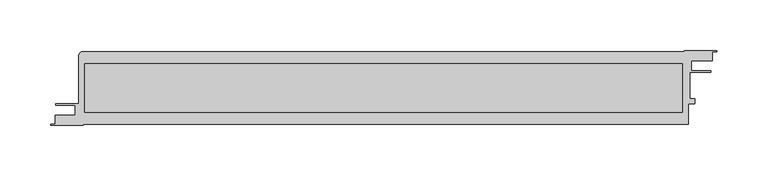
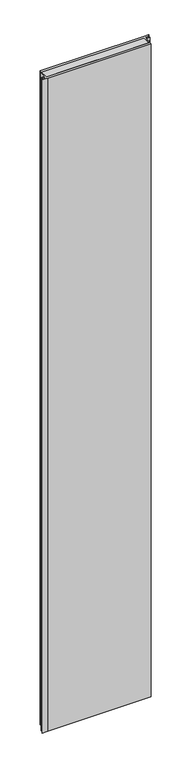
"""IFC4 building model written with IfcOpenShell, lengths in millimetres: plate geometry, Walls_External-Walls_Danpal_Danpatherm-K7-with-NM-Frame : Walls_External-Walls_Danpal_Danpatherm-K7-with-NM-Frame."""

import ifcopenshell
import ifcopenshell.guid

model = None  # the IFC model being written
_history = None  # IfcOwnerHistory: only IFC2X3 demands one
_inside = {}  # id of a spatial element -> (the spatial element, [elements in it])
_under = {}  # id of a project, library or spatial element -> (it, [spatial elements below it])
_declared = {}  # id of a project -> (the project, [libraries it declares])
_typed = {}  # id of a type object -> (the type object, [elements of that type])
_made_of = {}  # id of a material, layer set ... -> (it, [elements and type objects made of it])


def new_model(schema):
    """Start an empty IFC model of exactly this schema.

    Asked for "IFC4X3", IfcOpenShell would pick the latest addendum, in which some entities
    have other attributes; the version numbers below select the first issue.
    IFC2X3 requires an IfcOwnerHistory on every rooted entity: one is made here for all.
    """
    global model, _history
    if schema == "IFC4X3":
        model = ifcopenshell.file(schema_version=(4, 3, 0, 0))
    else:
        model = ifcopenshell.file(schema=schema)
    _inside.clear()
    _under.clear()
    _declared.clear()
    _typed.clear()
    _made_of.clear()
    _history = None
    if model.schema == "IFC2X3":
        org = make("IfcOrganization", Name="unknown")
        user = make(
            "IfcPersonAndOrganization",
            ThePerson=make("IfcPerson", FamilyName="unknown"),
            TheOrganization=org,
        )
        app = make(
            "IfcApplication",
            ApplicationDeveloper=org,
            Version="unknown",
            ApplicationFullName="unknown",
            ApplicationIdentifier="unknown",
        )
        _history = make(
            "IfcOwnerHistory",
            OwningUser=user,
            OwningApplication=app,
            ChangeAction="ADDED",
            CreationDate=0,
        )
    return model


def make(cls, **values):
    """One entity of the class cls with the attributes given. An attribute that is None is left unset."""
    return model.create_entity(
        cls, **{name: value for name, value in values.items() if value is not None}
    )


def rooted(cls, **values):
    """An entity with a GlobalId (a new one), such as an element, a storey or a relation."""
    return make(cls, GlobalId=ifcopenshell.guid.new(), OwnerHistory=_history, **values)


def si_unit(unit_type, name, prefix=None):
    """IfcSIUnit, for example si_unit("LENGTHUNIT", "METRE", prefix="MILLI")."""
    return make("IfcSIUnit", UnitType=unit_type, Prefix=prefix, Name=name)


def assignment(units):
    """IfcUnitAssignment: the units of a project."""
    return None if units is None else make("IfcUnitAssignment", Units=units)


def point(xyz):
    """IfcCartesianPoint."""
    return None if xyz is None else make("IfcCartesianPoint", Coordinates=xyz)


def direction(xyz):
    """IfcDirection."""
    return None if xyz is None else make("IfcDirection", DirectionRatios=xyz)


def frame(location, z_axis=None, x_axis=None):
    """IfcAxis2Placement3D, a coordinate frame: its origin and axes. An axis left out is left unset."""
    return make(
        "IfcAxis2Placement3D",
        Location=point(location),
        Axis=direction(z_axis),
        RefDirection=direction(x_axis),
    )


def frame_2d(location, x_axis=None):
    """IfcAxis2Placement2D, a coordinate frame in the plane: its origin and x axis."""
    return make(
        "IfcAxis2Placement2D", Location=point(location), RefDirection=direction(x_axis)
    )


def origin():
    """The frame at (0, 0, 0) with its axes left unset."""
    return frame((0.0, 0.0, 0.0))


def place(relative_to, where):
    """IfcLocalPlacement: puts the frame where relative to a parent placement (None: the world)."""
    return make(
        "IfcLocalPlacement", PlacementRelTo=relative_to, RelativePlacement=where
    )


def context(
    kind, dimensions, precision=None, world=None, true_north=None, identifier=None
):
    """IfcGeometricRepresentationContext, for example the 3D "Model" context."""
    return make(
        "IfcGeometricRepresentationContext",
        ContextIdentifier=identifier,
        ContextType=kind,
        CoordinateSpaceDimension=dimensions,
        Precision=precision,
        WorldCoordinateSystem=world,
        TrueNorth=true_north,
    )


def project(units=None, contexts=None):
    """IfcProject with its units and contexts."""
    return rooted(
        "IfcProject",
        Name="project",
        RepresentationContexts=contexts,
        UnitsInContext=assignment(units),
    )


def spatial(cls, under=None, at=None, **own):
    """A site, building, storey or space (cls), placed at a placement, below another one or the project."""
    s = rooted(cls, ObjectPlacement=at, **own)
    if under is not None:
        _under.setdefault(under.id(), (under, []))[1].append(s)
    return s


def polyline(points):
    """IfcPolyline through the points."""
    return make("IfcPolyline", Points=[point(p) for p in points])


def circle_curve(where, radius):
    """IfcCircle in the frame where."""
    return make("IfcCircle", Position=where, Radius=radius)


def trimmed(basis, trim1, trim2, sense, master):
    """IfcTrimmedCurve: the piece of a basis curve between two trims."""
    return make(
        "IfcTrimmedCurve",
        BasisCurve=basis,
        Trim1=trim1,
        Trim2=trim2,
        SenseAgreement=sense,
        MasterRepresentation=master,
    )


def segment(curve, same_sense, transition):
    """IfcCompositeCurveSegment."""
    return make(
        "IfcCompositeCurveSegment",
        Transition=transition,
        SameSense=same_sense,
        ParentCurve=curve,
    )


def composite_curve(segments, self_intersect=None):
    """IfcCompositeCurve: segments joined end to end."""
    return make("IfcCompositeCurve", Segments=segments, SelfIntersect=self_intersect)


def outline(outer, holes=None, kind="AREA"):
    """IfcArbitraryClosedProfileDef: a profile drawn as a closed curve; with holes, ...WithVoids."""
    if holes is None:
        return make("IfcArbitraryClosedProfileDef", ProfileType=kind, OuterCurve=outer)
    return make(
        "IfcArbitraryProfileDefWithVoids",
        ProfileType=kind,
        OuterCurve=outer,
        InnerCurves=holes,
    )


def extrude(swept, where, along, depth):
    """IfcExtrudedAreaSolid: the profile swept, set in the frame where, extruded along a direction by depth."""
    return make(
        "IfcExtrudedAreaSolid",
        SweptArea=swept,
        Position=where,
        ExtrudedDirection=direction(along),
        Depth=depth,
    )


def shape(context_of_items, identifier, shape_type, items):
    """IfcShapeRepresentation: the items that make up one representation, for example the "Body"."""
    return make(
        "IfcShapeRepresentation",
        ContextOfItems=context_of_items,
        RepresentationIdentifier=identifier,
        RepresentationType=shape_type,
        Items=items,
    )


def source(mapping_origin, context_of_items, identifier, shape_type, items):
    """IfcRepresentationMap: a shape defined once, which mapped items show again and again."""
    return make(
        "IfcRepresentationMap",
        MappingOrigin=mapping_origin,
        MappedRepresentation=shape(context_of_items, identifier, shape_type, items),
    )


def transform(
    local_origin,
    x_axis=None,
    y_axis=None,
    z_axis=None,
    scale=None,
    scale2=None,
    scale3=None,
    uniform=True,
):
    """IfcCartesianTransformationOperator3D, or its non-uniform kind. x_axis, y_axis, z_axis: its Axis1, 2, 3."""
    if uniform:
        return make(
            "IfcCartesianTransformationOperator3D",
            Axis1=direction(x_axis),
            Axis2=direction(y_axis),
            LocalOrigin=point(local_origin),
            Scale=scale,
            Axis3=direction(z_axis),
        )
    return make(
        "IfcCartesianTransformationOperator3DnonUniform",
        Axis1=direction(x_axis),
        Axis2=direction(y_axis),
        LocalOrigin=point(local_origin),
        Scale=scale,
        Axis3=direction(z_axis),
        Scale2=scale2,
        Scale3=scale3,
    )


def mapped(mapping_source, mapping_target):
    """IfcMappedItem: shows the shape of a source again, moved by a transform."""
    return make(
        "IfcMappedItem", MappingSource=mapping_source, MappingTarget=mapping_target
    )


def made_of(thing, what):
    """Note that an element or type object is made of a material, layer set ...; save() writes the relation."""
    if what is not None:
        _made_of.setdefault(what.id(), (what, []))[1].append(thing)
    return thing


def element(
    cls,
    number,
    at=None,
    inside=None,
    cuts=None,
    type_object=None,
    material=None,
    context=None,
    identifier="Body",
    shape_type=None,
    held_by="IfcProductDefinitionShape",
    body=None,
    shapes=None,
    **own,
):
    """One element of the class cls, such as IfcWall. Its Tag is "e" and its number.

    at: its placement. inside: the storey or other place that contains it. cuts: it is an
    opening in that element (IfcRelVoidsElement). A single representation is given by context,
    identifier, shape_type and body (its items); several are given by shapes. held_by: the class
    of the entity that holds the representations. save() writes the other relations.
    """
    e = rooted(cls, Tag="e%d" % number, ObjectPlacement=at, **own)
    if body is not None:
        shapes = [shape(context, identifier, shape_type, body)]
    if shapes is not None:
        e.Representation = make(held_by, Representations=shapes)
    if inside is not None:
        _inside.setdefault(inside.id(), (inside, []))[1].append(e)
    if cuts is not None:
        rooted(
            "IfcRelVoidsElement", RelatingBuildingElement=cuts, RelatedOpeningElement=e
        )
    if type_object is not None:
        _typed.setdefault(type_object.id(), (type_object, []))[1].append(e)
    return made_of(e, material)


def aggregate(whole, parts):
    """IfcRelAggregates: a whole, such as a stair, and the parts it consists of."""
    return rooted("IfcRelAggregates", RelatingObject=whole, RelatedObjects=parts)


def save(model, path):
    """Write the relations noted so far, then the file.

    IfcRelAggregates (storeys below a building ...), IfcRelContainedInSpatialStructure (elements
    in a storey), IfcRelDefinesByType, IfcRelAssociatesMaterial and IfcRelDeclares: one each for
    every whole, place, type object, material and project.
    """
    for whole, parts in _under.values():
        aggregate(whole, parts)
    for where, things in _inside.values():
        rooted(
            "IfcRelContainedInSpatialStructure",
            RelatedElements=things,
            RelatingStructure=where,
        )
    for kind, things in _typed.values():
        rooted("IfcRelDefinesByType", RelatedObjects=things, RelatingType=kind)
    for what, things in _made_of.values():
        rooted("IfcRelAssociatesMaterial", RelatedObjects=things, RelatingMaterial=what)
    for by, libraries in _declared.values():
        rooted("IfcRelDeclares", RelatingContext=by, RelatedDefinitions=libraries)
    model.write(path)


def plate_dd9d4cbf(model_context):
    return source(origin(), model_context, "Body", "SweptSolid", [
        extrude(outline(polyline([(276.7913962, 12.7999917), (-311.9298761, 12.7999917), (-311.9298761, 60.3432727), (276.7913962, 60.3432727), (276.7913962, 12.7999917)])), frame((0.0, 0.0, -22.0), z_axis=(0.0, 0.0, 1.0), x_axis=(1.0, 0.0, 0.0)), (0.0, 0.0, 1.0), 3970.063098),
        extrude(outline(composite_curve([segment(polyline([(304.6307801, 53.4717617), (304.6307801, 52.1717185), (283.7307593, 52.1717185), (283.7307593, 26.0716456), (288.7307598, 26.0716456), (288.7307598, 20.9715623), (282.4307598, 20.9715623), (282.4307598, 0.8), (-313.2692465, 0.8), (-313.2692465, 0.0), (-345.1692465, 0.0), (-345.1692465, 0.8), (-340.9692465, 0.8), (-340.9692465, 9.7656785), (-321.1394867, 9.7656785), (-321.1394867, 19.6715177), (-340.0956323, 19.6715177), (-340.0956323, 20.9715623), (-317.5262551, 20.9715623), (-317.5262551, 68.5003761)]), True, "CONTINUOUS"), segment(trimmed(circle_curve(frame_2d((-313.6833462, 68.5003761)), 3.8429089), [point((-317.5262551, 68.5003761))], [point((-313.6833462, 72.343285))], False, "CARTESIAN"), True, "CONTINUOUS"), segment(polyline([(-313.6833462, 72.343285), (278.5306028, 72.343285), (278.5306028, 73.143285), (310.4306028, 73.143285), (310.4306028, 72.343285), (306.1306028, 72.343285), (306.1306028, 63.4717658), (285.2325497, 63.4717658), (285.2325497, 53.4717617), (304.6307801, 53.4717617)]), True, "CONTINUOUS")], self_intersect=False), holes=[polyline([(276.7913962, 12.7999917), (276.7913962, 60.3432727), (-311.9298761, 60.3432727), (-311.9298761, 12.7999917), (276.7913962, 12.7999917)])]), frame((0.0, 0.0, -22.0), z_axis=(0.0, 0.0, 1.0), x_axis=(1.0, 0.0, 0.0)), (0.0, 0.0, 1.0), 3970.063098),
    ])


if __name__ == "__main__":
    model = new_model("IFC4")
    model_context = context("Model", 3, world=origin())
    ifc_project = project(units=[si_unit("LENGTHUNIT", "METRE", prefix="MILLI")], contexts=[model_context])
    site = spatial("IfcSite", under=ifc_project)
    building = spatial("IfcBuilding", under=site)
    placement = place(None, origin())
    plate_shape = plate_dd9d4cbf(model_context)
    element("IfcPlate", 1, ObjectType="Walls_External-Walls_Danpal_Danpatherm-K7-with-NM-Frame : Walls_External-Walls_Danpal_Danpatherm-K7-with-NM-Frame", at=placement, inside=building, context=model_context, shape_type="MappedRepresentation", body=[
        mapped(plate_shape, transform((0.0, 0.0, 0.0), x_axis=(1.0, 0.0, 0.0), y_axis=(0.0, 1.0, 0.0), z_axis=(0.0, 0.0, 1.0))),
    ])
    save(model, "model.ifc")
